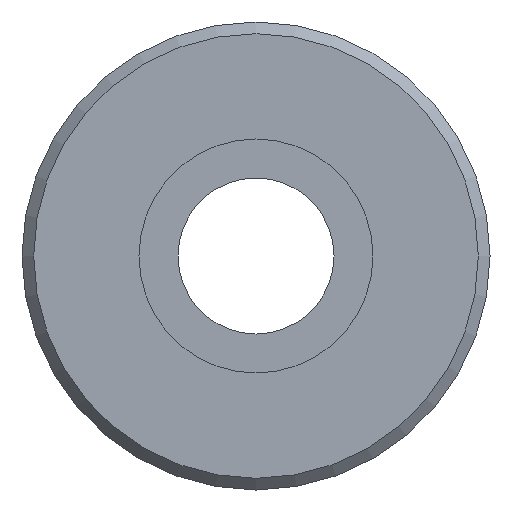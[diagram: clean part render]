
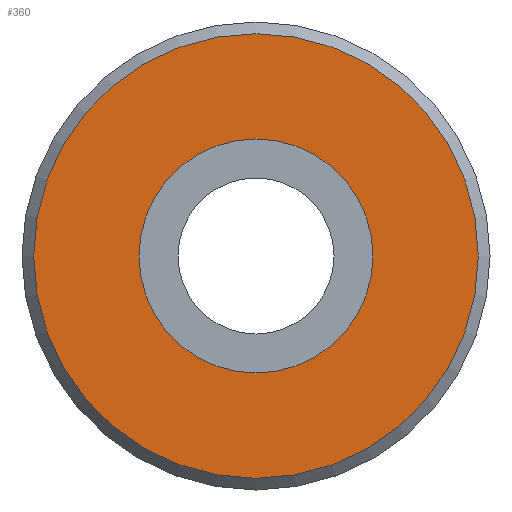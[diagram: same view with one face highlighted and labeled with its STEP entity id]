
A CAD part, front view. The second image highlights one B-rep face of the part: STEP entity #360.
In plain terms, the highlighted planar face has unit normal (0, -1, 0).
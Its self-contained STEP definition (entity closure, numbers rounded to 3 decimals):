
#17=FACE_BOUND('',#67,.T.);
#25=PLANE('',#415);
#40=FACE_OUTER_BOUND('',#66,.T.);
#66=EDGE_LOOP('',(#259));
#67=EDGE_LOOP('',(#260));
#133=CIRCLE('',#412,5.7);
#135=CIRCLE('',#416,3.);
#167=VERTEX_POINT('',#616);
#169=VERTEX_POINT('',#624);
#201=EDGE_CURVE('',#167,#167,#133,.T.);
#204=EDGE_CURVE('',#169,#169,#135,.T.);
#259=ORIENTED_EDGE('',*,*,#201,.F.);
#260=ORIENTED_EDGE('',*,*,#204,.T.);
#360=ADVANCED_FACE('',(#40,#17),#25,.F.);
#412=AXIS2_PLACEMENT_3D('',#618,#482,#483);
#415=AXIS2_PLACEMENT_3D('',#623,#489,#490);
#416=AXIS2_PLACEMENT_3D('',#625,#491,#492);
#482=DIRECTION('center_axis',(0.,1.,0.));
#483=DIRECTION('ref_axis',(-1.,0.,0.));
#489=DIRECTION('center_axis',(0.,1.,0.));
#490=DIRECTION('ref_axis',(0.,0.,1.));
#491=DIRECTION('center_axis',(0.,1.,0.));
#492=DIRECTION('ref_axis',(1.,0.,0.));
#616=CARTESIAN_POINT('',(5.7,-17.3,0.));
#618=CARTESIAN_POINT('Origin',(0.,-17.3,0.));
#623=CARTESIAN_POINT('Origin',(0.,-17.3,0.));
#624=CARTESIAN_POINT('',(-3.,-17.3,0.));
#625=CARTESIAN_POINT('Origin',(0.,-17.3,0.));
